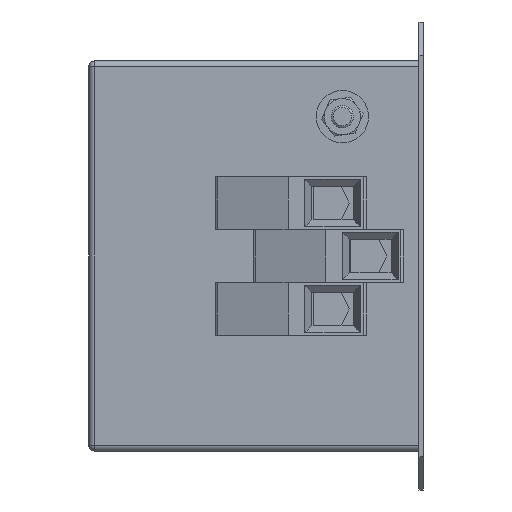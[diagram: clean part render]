
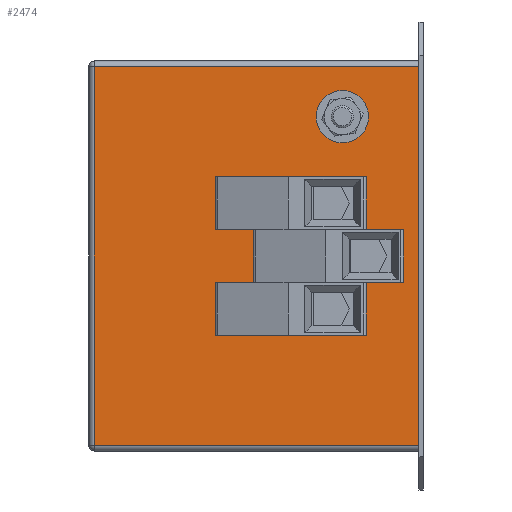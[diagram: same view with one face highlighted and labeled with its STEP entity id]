
A CAD part, left-side view. The second image highlights one B-rep face of the part: STEP entity #2474.
In plain terms, the highlighted planar face has unit normal (-1, 0, 0).
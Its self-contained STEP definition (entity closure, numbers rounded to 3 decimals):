
#79 = EDGE_CURVE ( 'NONE', #3254, #3025, #3805, .T. ) ;
#234 = ORIENTED_EDGE ( 'NONE', *, *, #2776, .T. ) ;
#262 = DIRECTION ( 'NONE',  ( 1., 0., 0. ) ) ;
#332 = FACE_BOUND ( 'NONE', #2555, .T. ) ;
#359 = EDGE_CURVE ( 'NONE', #6183, #857, #5992, .T. ) ;
#365 = ORIENTED_EDGE ( 'NONE', *, *, #3608, .T. ) ;
#411 = ORIENTED_EDGE ( 'NONE', *, *, #3693, .T. ) ;
#493 = CARTESIAN_POINT ( 'NONE',  ( 0., 118., -154. ) ) ;
#699 = EDGE_LOOP ( 'NONE', ( #4631, #6980, #234, #411 ) ) ;
#770 = AXIS2_PLACEMENT_3D ( 'NONE', #4904, #6901, #6997 ) ;
#857 = VERTEX_POINT ( 'NONE', #3067 ) ;
#865 = EDGE_CURVE ( 'NONE', #6205, #7496, #6409, .T. ) ;
#963 = FACE_OUTER_BOUND ( 'NONE', #699, .T. ) ;
#1010 = DIRECTION ( 'NONE',  ( 0., 0., -1. ) ) ;
#1016 = CARTESIAN_POINT ( 'NONE',  ( 0., 56., -101.25 ) ) ;
#1065 = VECTOR ( 'NONE', #7250, 1000. ) ;
#1162 = AXIS2_PLACEMENT_3D ( 'NONE', #6652, #5975, #6034 ) ;
#1247 = EDGE_CURVE ( 'NONE', #857, #6183, #3737, .T. ) ;
#1342 = CARTESIAN_POINT ( 'NONE',  ( 0., 120., -154. ) ) ;
#1384 = CARTESIAN_POINT ( 'NONE',  ( 0., 56., -66.75 ) ) ;
#1394 = CIRCLE ( 'NONE', #2273, 1.75 ) ;
#1395 = CARTESIAN_POINT ( 'NONE',  ( 0., 29., -38. ) ) ;
#1430 = DIRECTION ( 'NONE',  ( 0., 0., -1. ) ) ;
#1626 = CARTESIAN_POINT ( 'NONE',  ( 0., 120., -152. ) ) ;
#1767 = DIRECTION ( 'NONE',  ( 1., 0., 0. ) ) ;
#1899 = CIRCLE ( 'NONE', #7596, 4. ) ;
#1931 = EDGE_CURVE ( 'NONE', #4536, #6782, #4249, .T. ) ;
#1966 = PLANE ( 'NONE',  #2303 ) ;
#2079 = ORIENTED_EDGE ( 'NONE', *, *, #359, .T. ) ;
#2273 = AXIS2_PLACEMENT_3D ( 'NONE', #4946, #262, #6251 ) ;
#2303 = AXIS2_PLACEMENT_3D ( 'NONE', #1342, #2698, #3376 ) ;
#2351 = CARTESIAN_POINT ( 'NONE',  ( 0., 1.5, -152. ) ) ;
#2474 = ADVANCED_FACE ( 'NONE', ( #332, #7727, #6327, #7192, #963 ), #1966, .F. ) ;
#2555 = EDGE_LOOP ( 'NONE', ( #8364, #365 ) ) ;
#2556 = ORIENTED_EDGE ( 'NONE', *, *, #865, .T. ) ;
#2559 = LINE ( 'NONE', #1626, #5320 ) ;
#2698 = DIRECTION ( 'NONE',  ( 1., 0., 0. ) ) ;
#2703 = VERTEX_POINT ( 'NONE', #2351 ) ;
#2755 = CARTESIAN_POINT ( 'NONE',  ( 0., 56., -65. ) ) ;
#2776 = EDGE_CURVE ( 'NONE', #2703, #8003, #5087, .T. ) ;
#2790 = VECTOR ( 'NONE', #3817, 1000. ) ;
#3025 = VERTEX_POINT ( 'NONE', #4896 ) ;
#3067 = CARTESIAN_POINT ( 'NONE',  ( 0., 56., -104.75 ) ) ;
#3131 = DIRECTION ( 'NONE',  ( 0., 0., -1. ) ) ;
#3254 = VERTEX_POINT ( 'NONE', #3577 ) ;
#3278 = VECTOR ( 'NONE', #8340, 1000. ) ;
#3300 = AXIS2_PLACEMENT_3D ( 'NONE', #7885, #8607, #7861 ) ;
#3319 = CIRCLE ( 'NONE', #5313, 1.75 ) ;
#3376 = DIRECTION ( 'NONE',  ( 0., 0., -1. ) ) ;
#3553 = EDGE_CURVE ( 'NONE', #6782, #4536, #3319, .T. ) ;
#3577 = CARTESIAN_POINT ( 'NONE',  ( 0., 118., -16. ) ) ;
#3608 = EDGE_CURVE ( 'NONE', #4289, #6706, #5638, .T. ) ;
#3693 = EDGE_CURVE ( 'NONE', #8003, #3254, #4582, .T. ) ;
#3737 = CIRCLE ( 'NONE', #1162, 1.75 ) ;
#3753 = DIRECTION ( 'NONE',  ( 1., 0., 0. ) ) ;
#3805 = LINE ( 'NONE', #493, #1065 ) ;
#3817 = DIRECTION ( 'NONE',  ( 0., 1., 0. ) ) ;
#4222 = EDGE_LOOP ( 'NONE', ( #2556, #4774 ) ) ;
#4249 = CIRCLE ( 'NONE', #4320, 1.75 ) ;
#4289 = VERTEX_POINT ( 'NONE', #5631 ) ;
#4320 = AXIS2_PLACEMENT_3D ( 'NONE', #4423, #5776, #3131 ) ;
#4423 = CARTESIAN_POINT ( 'NONE',  ( 0., 56., -65. ) ) ;
#4536 = VERTEX_POINT ( 'NONE', #1384 ) ;
#4582 = LINE ( 'NONE', #8554, #2790 ) ;
#4594 = EDGE_LOOP ( 'NONE', ( #6386, #2079 ) ) ;
#4631 = ORIENTED_EDGE ( 'NONE', *, *, #79, .T. ) ;
#4774 = ORIENTED_EDGE ( 'NONE', *, *, #5762, .T. ) ;
#4896 = CARTESIAN_POINT ( 'NONE',  ( 0., 118., -152. ) ) ;
#4904 = CARTESIAN_POINT ( 'NONE',  ( 0., 29., -34. ) ) ;
#4946 = CARTESIAN_POINT ( 'NONE',  ( 0., 42.5, -84. ) ) ;
#5087 = LINE ( 'NONE', #7661, #3278 ) ;
#5095 = CARTESIAN_POINT ( 'NONE',  ( 0., 29., -34. ) ) ;
#5192 = DIRECTION ( 'NONE',  ( 0., 0., -1. ) ) ;
#5255 = EDGE_CURVE ( 'NONE', #3025, #2703, #2559, .T. ) ;
#5313 = AXIS2_PLACEMENT_3D ( 'NONE', #2755, #7468, #1430 ) ;
#5320 = VECTOR ( 'NONE', #8392, 1000. ) ;
#5631 = CARTESIAN_POINT ( 'NONE',  ( 0., 29., -30. ) ) ;
#5638 = CIRCLE ( 'NONE', #770, 4. ) ;
#5683 = CARTESIAN_POINT ( 'NONE',  ( 0., 42.5, -82.25 ) ) ;
#5758 = CARTESIAN_POINT ( 'NONE',  ( 0., 56., -103. ) ) ;
#5762 = EDGE_CURVE ( 'NONE', #7496, #6205, #1394, .T. ) ;
#5776 = DIRECTION ( 'NONE',  ( 1., 0., 0. ) ) ;
#5942 = CARTESIAN_POINT ( 'NONE',  ( 0., 1.5, -16. ) ) ;
#5955 = ORIENTED_EDGE ( 'NONE', *, *, #3553, .T. ) ;
#5975 = DIRECTION ( 'NONE',  ( 1., 0., 0. ) ) ;
#5992 = CIRCLE ( 'NONE', #6163, 1.75 ) ;
#6034 = DIRECTION ( 'NONE',  ( 0., 0., -1. ) ) ;
#6163 = AXIS2_PLACEMENT_3D ( 'NONE', #5758, #1767, #5192 ) ;
#6183 = VERTEX_POINT ( 'NONE', #1016 ) ;
#6205 = VERTEX_POINT ( 'NONE', #7126 ) ;
#6251 = DIRECTION ( 'NONE',  ( 0., 0., -1. ) ) ;
#6327 = FACE_BOUND ( 'NONE', #4222, .T. ) ;
#6386 = ORIENTED_EDGE ( 'NONE', *, *, #1247, .T. ) ;
#6409 = CIRCLE ( 'NONE', #3300, 1.75 ) ;
#6652 = CARTESIAN_POINT ( 'NONE',  ( 0., 56., -103. ) ) ;
#6706 = VERTEX_POINT ( 'NONE', #1395 ) ;
#6782 = VERTEX_POINT ( 'NONE', #8270 ) ;
#6901 = DIRECTION ( 'NONE',  ( 1., 0., 0. ) ) ;
#6980 = ORIENTED_EDGE ( 'NONE', *, *, #5255, .T. ) ;
#6997 = DIRECTION ( 'NONE',  ( 0., 0., -1. ) ) ;
#7126 = CARTESIAN_POINT ( 'NONE',  ( 0., 42.5, -85.75 ) ) ;
#7192 = FACE_BOUND ( 'NONE', #4594, .T. ) ;
#7250 = DIRECTION ( 'NONE',  ( 0., 0., -1. ) ) ;
#7468 = DIRECTION ( 'NONE',  ( 1., 0., 0. ) ) ;
#7496 = VERTEX_POINT ( 'NONE', #5683 ) ;
#7596 = AXIS2_PLACEMENT_3D ( 'NONE', #5095, #3753, #1010 ) ;
#7661 = CARTESIAN_POINT ( 'NONE',  ( 0., 1.5, -154. ) ) ;
#7666 = EDGE_LOOP ( 'NONE', ( #8529, #5955 ) ) ;
#7727 = FACE_BOUND ( 'NONE', #7666, .T. ) ;
#7861 = DIRECTION ( 'NONE',  ( 0., 0., -1. ) ) ;
#7869 = EDGE_CURVE ( 'NONE', #6706, #4289, #1899, .T. ) ;
#7885 = CARTESIAN_POINT ( 'NONE',  ( 0., 42.5, -84. ) ) ;
#8003 = VERTEX_POINT ( 'NONE', #5942 ) ;
#8270 = CARTESIAN_POINT ( 'NONE',  ( 0., 56., -63.25 ) ) ;
#8340 = DIRECTION ( 'NONE',  ( 0., 0., 1. ) ) ;
#8364 = ORIENTED_EDGE ( 'NONE', *, *, #7869, .T. ) ;
#8392 = DIRECTION ( 'NONE',  ( 0., -1., 0. ) ) ;
#8529 = ORIENTED_EDGE ( 'NONE', *, *, #1931, .T. ) ;
#8554 = CARTESIAN_POINT ( 'NONE',  ( 0., 120., -16. ) ) ;
#8607 = DIRECTION ( 'NONE',  ( 1., 0., 0. ) ) ;
